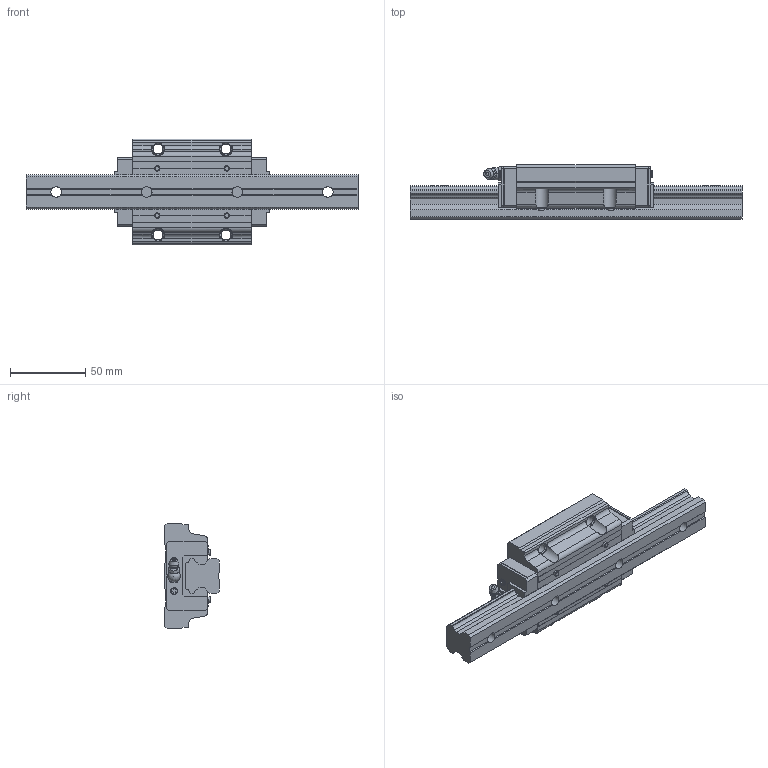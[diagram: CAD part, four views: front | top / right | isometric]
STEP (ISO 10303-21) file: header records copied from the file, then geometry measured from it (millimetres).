
FILE_DESCRIPTION(/* description */ ('STEP AP203'),/* implementation_level */ '2;1');
FILE_NAME(/* name */ 'HSR25M1LA1SS-220L_G20_0_B-M6F_58-5_0_0_0_1',/* time_stamp */ '2024-05-23T06:12:09+02:00',/* author */ ('License CC BY-ND 4.0'),/* organization */ ('CADENAS'),/* preprocessor_version */ 'ST-DEVELOPER v19.3',/* originating_system */ 'PARTsolutions',/* authorisation */ ' ');
FILE_SCHEMA (('CONFIG_CONTROL_DESIGN'));
Length unit declared in the file: millimetre
Products named in the file (4): HSR25M1LA1SS-220L_G20_0_B-M6F_58-5_0_0_0_1; HSR25M1LA122020 Rail; HSR25M1LASSB-M6F1 Slider; hsr_ftht_B-M6F_grease_nipple_joint
Assembly tree (3 placements, depth 2):
  HSR25M1LA1SS-220L_G20_0_B-M6F_58-5_0_0_0_1
    HSR25M1LA122020 Rail
    HSR25M1LASSB-M6F1 Slider
    hsr_ftht_B-M6F_grease_nipple_joint
Bounding box: 220 x 36 x 70 mm (x, y, z)
Volume: 227208 mm3; surface area: 49978.6 mm2
Topology: 3 solids, 3 shells, 294 faces, 806 edges, 527 vertices
Faces by surface type: plane 208, cylinder 52, cone 21, torus 10, sphere 3
Full cylindrical faces by diameter (mm): 3.518 x4, 4.5 x4, 4.917 x2, 6 x1, 6.647 x4, 7 x4, 8 x1, 11 x4
Entity records: 9089 total; most frequent: CARTESIAN_POINT 1737, ORIENTED_EDGE 1476, DIRECTION 1460, EDGE_CURVE 738, LINE 524, VECTOR 524, VERTEX_POINT 513, AXIS2_PLACEMENT_3D 468
